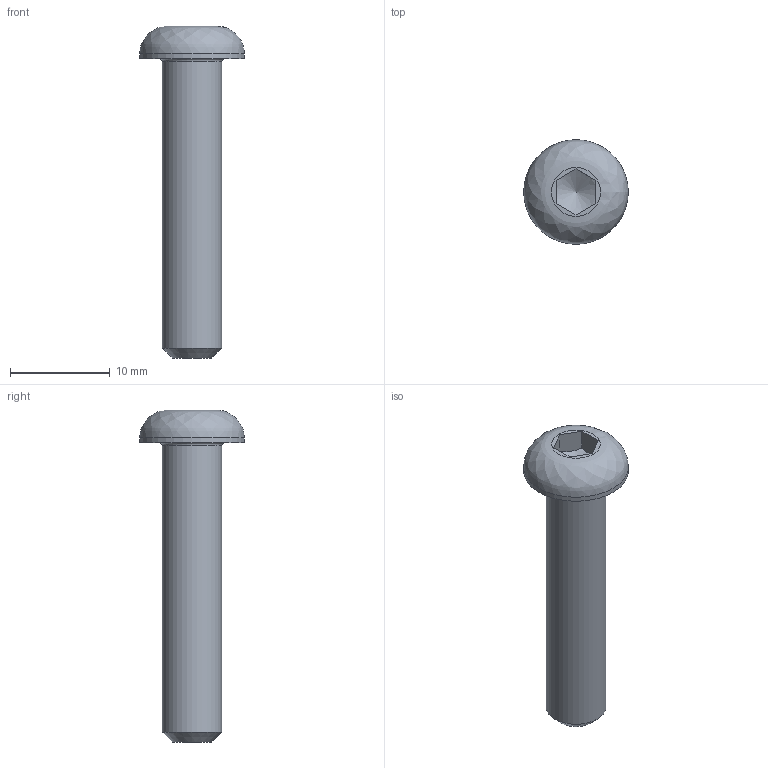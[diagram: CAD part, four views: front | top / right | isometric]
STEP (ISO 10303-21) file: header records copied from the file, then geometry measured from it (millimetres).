
FILE_DESCRIPTION(/* description */ (''),/* implementation_level */ '2;1');
FILE_NAME(/* name */ 'C:\Users\unitec\Documents\Inventor\各種小物\JIS\JIS B 1174 六角穴付きボタンボルト\BASE\M6\M6x30.stp',/* time_stamp */ '2015-07-21T18:23:23+09:00',/* author */ ('unitec'),/* organization */ (''),/* preprocessor_version */ 'ST-DEVELOPER v15.2',/* originating_system */ 'Autodesk Inventor 2014',/* authorisation */ '');
FILE_SCHEMA (('AUTOMOTIVE_DESIGN { 1 0 10303 214 3 1 1 }'));
Length unit declared in the file: millimetre
Products named in the file (1): M6x30
Bounding box: 10.5 x 10.5 x 33.3 mm (x, y, z)
Volume: 1040.7 mm3; surface area: 822.5 mm2
Topology: 1 solids, 1 shells, 15 faces, 35 edges, 23 vertices
Faces by surface type: plane 9, cylinder 2, cone 2, torus 1, bspline 1
Full cylindrical faces by diameter (mm): 6 x1, 10.5 x1
Entity records: 423 total; most frequent: CARTESIAN_POINT 105, DIRECTION 60, ORIENTED_EDGE 56, EDGE_CURVE 28, AXIS2_PLACEMENT_3D 24, EDGE_LOOP 21, VERTEX_POINT 21, FACE_OUTER_BOUND 15
